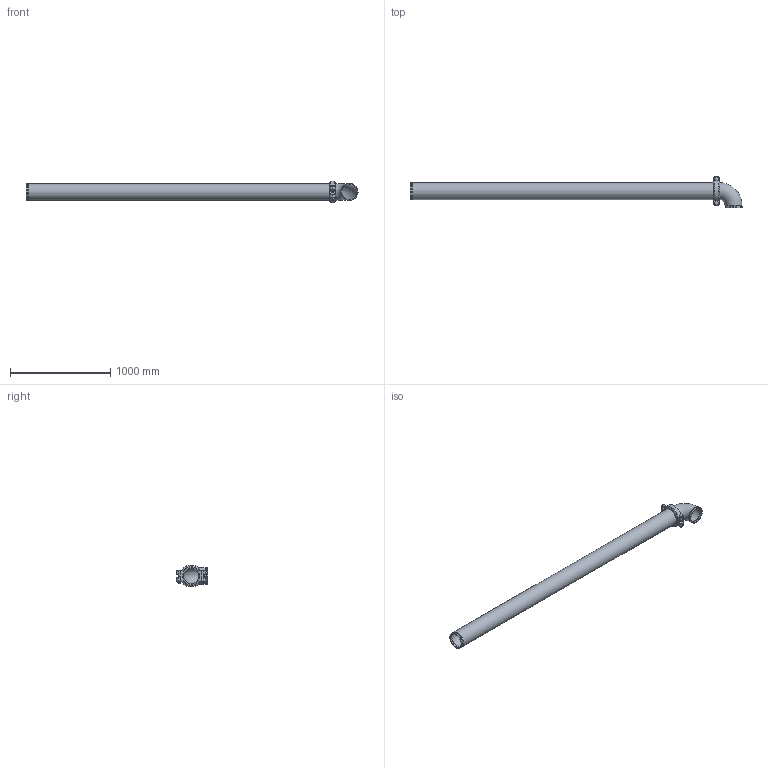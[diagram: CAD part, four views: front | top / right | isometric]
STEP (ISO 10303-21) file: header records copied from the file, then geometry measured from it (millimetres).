
FILE_DESCRIPTION(/* description */ ('VIC LONG RUN FITTING No R23 (OGS)','CAx-IF Rec.Pracs.---Representation and Presentation of Product Manufacturing Information (PMI)---4.0---2014-10-13'),/* implementation_level */ '2;1');
FILE_NAME(/* name */ 'C:\Users\Vjadhav\AppData\Roaming\Autodesk\ApplicationPlugins\Back Up\Victaulic_IPS_Long Run Fittings_No R23 (OGS)\Victaulic_IPS_Long Run Fittings_No R23 (OGS)_6 (150).stp',/* time_stamp */ '2020-10-06T20:02:02+06:00',/* author */ ('Vjadhav'),/* organization */ ('Victaulic'),/* preprocessor_version */ 'ST-DEVELOPER v17.2',/* originating_system */ 'Autodesk Inventor 2019',/* authorisation */ '');
FILE_SCHEMA (('AP242_MANAGED_MODEL_BASED_3D_ENGINEERING_MIM_LF { 1 0 10303 442 1 1 4 }'));
Length unit declared in the file: inch
Products named in the file (4): R23-06.0; 010-06.0; 177N-06.0; Pipe_R13-06.0
Assembly tree (3 placements, depth 2):
  R23-06.0
    010-06.0
    177N-06.0
    Pipe_R13-06.0
Bounding box: 3306.89 x 312.15 x 218.43 mm (x, y, z)
Volume: 13189999.3 mm3; surface area: 3540614.2 mm2
Topology: 3 solids, 3 shells, 117 faces, 305 edges, 206 vertices
Faces by surface type: plane 68, cylinder 37, torus 6, cone 4, sphere 2
Full cylindrical faces by diameter (mm): 19.05 x2, 37.694 x2, 154.051 x3, 155.575 x1, 163.957 x4, 168.275 x7
Entity records: 4268 total; most frequent: CARTESIAN_POINT 971, DIRECTION 661, ORIENTED_EDGE 618, EDGE_CURVE 309, AXIS2_PLACEMENT_3D 248, VERTEX_POINT 206, LINE 165, VECTOR 165
